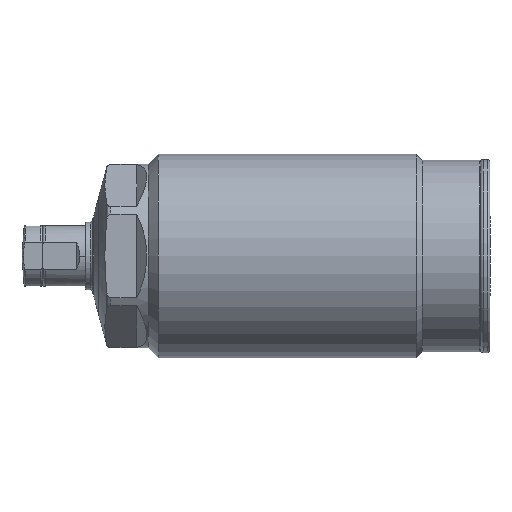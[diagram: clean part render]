
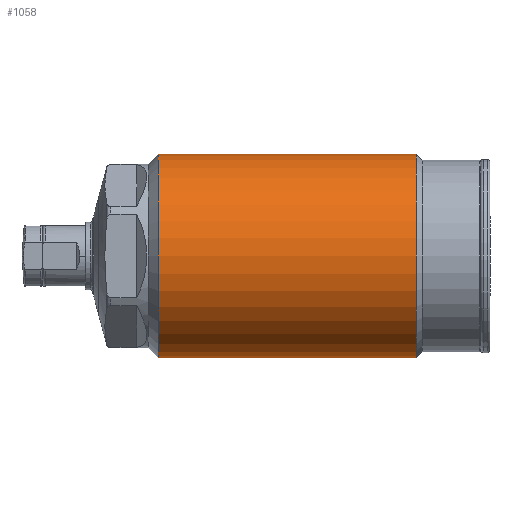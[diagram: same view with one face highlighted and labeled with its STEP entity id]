
A CAD part, left-side view. The second image highlights one B-rep face of the part: STEP entity #1058.
In plain terms, the highlighted cylindrical face has radius 15 mm (diameter 30 mm), a partial arc.
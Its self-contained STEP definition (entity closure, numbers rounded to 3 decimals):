
#819=CYLINDRICAL_SURFACE('',#2943,15.);
#879=LINE('',#4167,#965);
#880=LINE('',#4168,#966);
#965=VECTOR('',#3402,1.);
#966=VECTOR('',#3403,1.);
#1058=ADVANCED_FACE('',(#1248),#819,.T.);
#1248=FACE_OUTER_BOUND('',#1382,.T.);
#1382=EDGE_LOOP('',(#1685,#1686,#1687,#1688));
#1685=ORIENTED_EDGE('',*,*,#2427,.F.);
#1686=ORIENTED_EDGE('',*,*,#2453,.T.);
#1687=ORIENTED_EDGE('',*,*,#2428,.T.);
#1688=ORIENTED_EDGE('',*,*,#2454,.F.);
#2209=VERTEX_POINT('',#4159);
#2210=VERTEX_POINT('',#4161);
#2211=VERTEX_POINT('',#4165);
#2212=VERTEX_POINT('',#4166);
#2427=EDGE_CURVE('',#2212,#2210,#879,.T.);
#2428=EDGE_CURVE('',#2211,#2209,#880,.T.);
#2453=EDGE_CURVE('',#2212,#2211,#2710,.T.);
#2454=EDGE_CURVE('',#2210,#2209,#2711,.T.);
#2710=CIRCLE('',#2940,15.);
#2711=CIRCLE('',#2942,15.);
#2940=AXIS2_PLACEMENT_3D('',#4364,#3448,#3449);
#2942=AXIS2_PLACEMENT_3D('',#4366,#3452,#3453);
#2943=AXIS2_PLACEMENT_3D('',#4367,#3454,#3455);
#3402=DIRECTION('',(0.,1.,0.));
#3403=DIRECTION('',(0.,1.,0.));
#3448=DIRECTION('',(0.,1.,0.));
#3449=DIRECTION('',(0.,0.,1.));
#3452=DIRECTION('',(0.,1.,0.));
#3453=DIRECTION('',(0.,0.,1.));
#3454=DIRECTION('',(0.,1.,0.));
#3455=DIRECTION('',(0.,0.,-1.));
#4159=CARTESIAN_POINT('',(0.,48.9,15.));
#4161=CARTESIAN_POINT('',(0.,48.9,-15.));
#4165=CARTESIAN_POINT('',(0.,10.9,15.));
#4166=CARTESIAN_POINT('',(0.,10.9,-15.));
#4167=CARTESIAN_POINT('',(0.,59.7,-15.));
#4168=CARTESIAN_POINT('',(0.,59.7,15.));
#4364=CARTESIAN_POINT('',(0.,10.9,0.));
#4366=CARTESIAN_POINT('',(0.,48.9,0.));
#4367=CARTESIAN_POINT('',(0.,59.7,0.));
